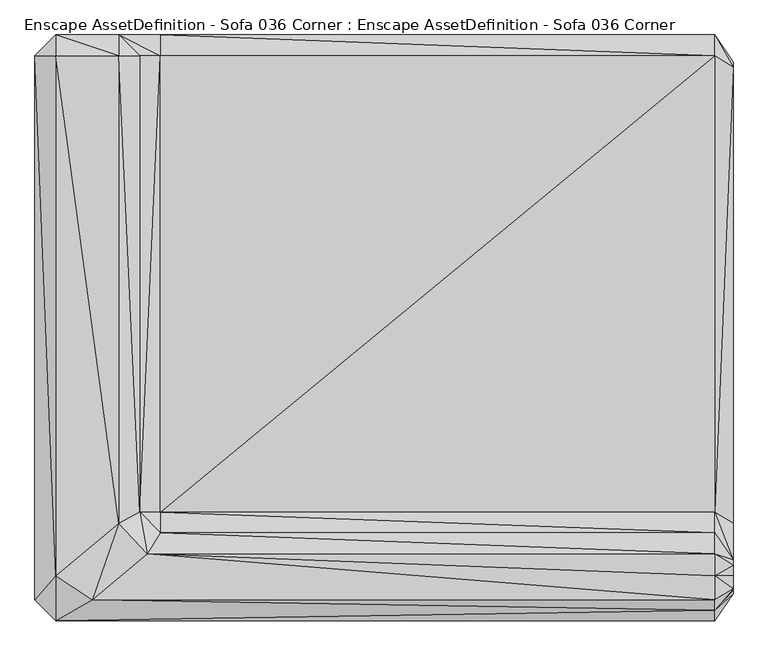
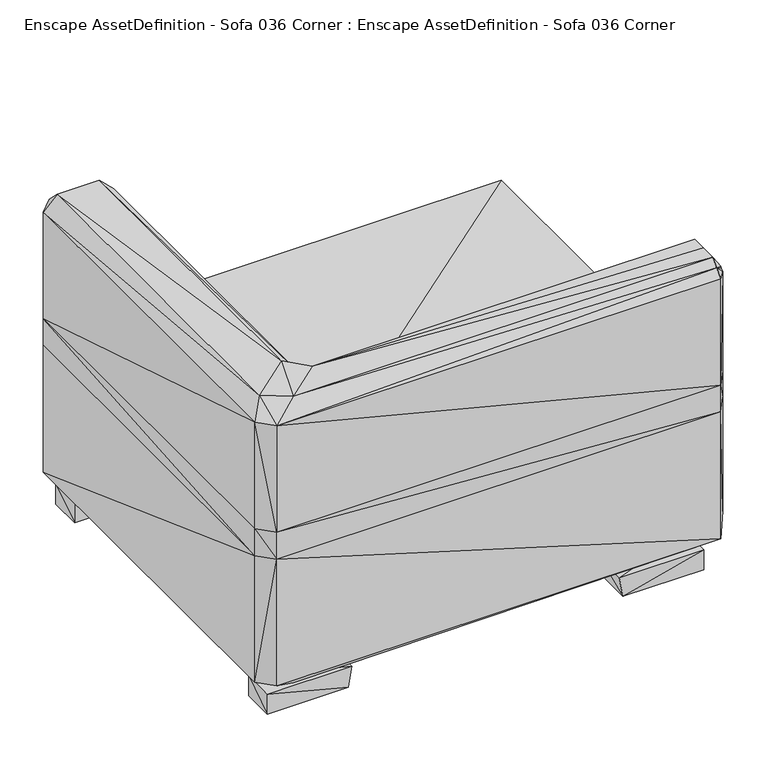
"""IFC4 building model written with IfcOpenShell, lengths in millimetres: geographic element geometry, Enscape AssetDefinition - Sofa 036 Corner : Enscape AssetDefinition - Sofa 036 Corner."""

from ifc_helpers import new_model, si_unit, origin, place, context, project, spatial, faceted_brep, source, transform, mapped, element, save


def enscape_assetdefinition_sofa_036_corner_enscape_ac6ef4ed(model_context):
    return source(origin(), model_context, "Body", "Brep", [
        faceted_brep([(507.2727203, -322.9636252, 473.454535), (-388.8879418, -322.9636252, 473.454535), (507.2727203, -322.9636252, 743.999958), (507.2727203, -356.7818105, 777.8181434), (536.6082788, -366.7505682, 725.8632779), (-388.8879418, -322.9636252, 743.999958), (-388.8879418, -289.1454399, 439.6363199), (-422.7061272, -289.1454399, 473.454535), (507.2727203, -289.1454399, 439.6363199), (536.6082788, -366.7505682, 455.3178251), (-388.8879418, 448.0908811, 439.6363199), (507.2727203, 448.0908811, 439.6363199), (-422.7061272, 448.0908811, 473.454535), (-422.7061272, -289.1454399, 743.999958), (-388.8879418, 481.9090664, 405.8181643), (-456.5242827, 481.9090664, 405.8181643), (536.6082788, 429.9542308, 395.8494067), (507.2727203, 481.9090664, 405.8181643), (-388.8879418, 481.9090664, 84.5454559), (507.2727203, 481.9090664, 84.5454559), (536.6082788, 438.1221235, 387.68062), (536.6082788, 438.1221235, 102.6821434), (-388.8879418, 448.0908811, 50.7272705), (507.2727203, 448.0908811, 50.7272705), (536.6082788, 429.9542308, 94.5142061), (-456.5242827, 481.9090664, 84.5454559), (507.2727203, -289.1454399, 50.7272705), (-456.5242827, 448.0908811, 50.7272705), (-388.8879418, -289.1454399, 50.7272705), (536.6082788, -289.1454399, 94.5142061), (507.2727203, -356.7818105, 50.7272705), (536.6082788, -350.0993252, 94.5142061), (-410.3878438, -356.7818105, 50.7272705), (-456.5242827, -307.2035015, 50.7272705), (-558.0000281, 448.0908811, 50.7272705), (-558.0000281, -392.4320936, 50.7272705), (-498.9703298, -431.1817884, 50.7272705), (507.2727203, -465.0000036, 84.5454559), (536.6082788, -421.2130606, 116.7369857), (536.6082788, -307.28212, 395.8494067), (536.6082788, -421.2130606, 405.8181643), (507.2727203, -465.0000036, 405.8181643), (-558.0000281, -465.0000036, 84.5454559), (-558.0000281, -465.0000036, 405.8181643), (-591.8181539, -431.1817884, 84.5454559), (-591.8181539, -431.1817884, 405.8181643), (-591.8181539, -431.1817884, 473.454535), (-558.0000281, -465.0000036, 473.454535), (507.2727203, -465.0000036, 473.454535), (-558.0000281, -465.0000036, 743.999958), (-591.8181539, -431.1817884, 743.999958), (-591.8181539, 448.0908811, 473.454535), (-591.8181539, 448.0908811, 405.8181643), (-591.8181539, 448.0908811, 84.5454559), (-558.0000281, 481.9090664, 84.5454559), (-558.0000281, 481.9090664, 405.8181643), (-558.0000281, 481.9090664, 473.454535), (-456.5242827, 481.9090664, 473.454535), (-558.0000281, 481.9090664, 743.999958), (-456.5242827, 481.9090664, 743.999958), (-558.0000281, 448.0908811, 777.8181434), (-591.8181539, 448.0908811, 743.999958), (-456.5242827, 448.0908811, 777.8181434), (-422.7061272, 448.0908811, 743.999958), (-456.5242827, -307.2035015, 777.8181434), (-558.0000281, -392.4320936, 777.8181434), (-498.9703298, -431.1817884, 777.8181434), (-410.3878438, -356.7818105, 777.8181434), (507.2727203, -431.1817884, 777.8181434), (507.2727203, -392.2689259, 777.8181434), (507.2727203, -447.6089478, 761.3909245), (507.2727203, -465.0000036, 743.999958), (536.6082788, -413.0442739, 734.0312004), (536.6082788, -416.6467488, 730.4287553), (536.6082788, -421.2130606, 725.8632779), (536.6082788, -392.2689259, 734.0312004), (536.6082788, -374.9184906, 734.0312004), (536.6082788, -421.2130606, 473.454535)], [[[0, 1, 2]], [[2, 3, 4]], [[1, 5, 2]], [[3, 2, 5]], [[0, 2, 4]], [[1, 6, 7]], [[5, 1, 7]], [[6, 1, 0]], [[8, 6, 0]], [[9, 0, 4]], [[8, 0, 9]], [[10, 6, 11]], [[7, 6, 10]], [[6, 8, 11]], [[12, 7, 10]], [[13, 5, 7]], [[13, 7, 12]], [[10, 14, 15]], [[10, 15, 12]], [[10, 11, 14]], [[11, 8, 16]], [[11, 17, 14]], [[17, 11, 16]], [[18, 14, 19]], [[15, 14, 18]], [[14, 17, 19]], [[20, 17, 16]], [[19, 17, 20]], [[21, 19, 20]], [[21, 20, 16]], [[18, 19, 22]], [[23, 19, 24]], [[19, 23, 22]], [[19, 21, 24]], [[25, 15, 18]], [[25, 18, 22]], [[23, 26, 22]], [[27, 25, 22]], [[26, 28, 22]], [[27, 22, 28]], [[26, 23, 24]], [[29, 26, 24]], [[24, 21, 16]], [[29, 24, 16]], [[26, 30, 28]], [[30, 26, 31]], [[26, 29, 31]], [[32, 33, 28]], [[33, 27, 28]], [[30, 32, 28]], [[27, 34, 25]], [[34, 27, 33]], [[35, 34, 33]], [[35, 33, 36]], [[33, 32, 36]], [[32, 37, 36]], [[32, 30, 37]], [[37, 30, 38]], [[30, 31, 38]], [[31, 29, 39]], [[31, 39, 38]], [[40, 41, 38]], [[39, 40, 38]], [[41, 37, 38]], [[42, 37, 43]], [[37, 42, 36]], [[37, 41, 43]], [[36, 42, 35]], [[42, 43, 44]], [[42, 44, 35]], [[45, 43, 46]], [[43, 41, 47]], [[43, 47, 46]], [[43, 45, 44]], [[41, 48, 47]], [[48, 41, 40]], [[49, 50, 47]], [[47, 48, 49]], [[50, 46, 47]], [[46, 51, 45]], [[51, 46, 50]], [[52, 53, 45]], [[53, 44, 45]], [[51, 52, 45]], [[44, 53, 35]], [[54, 34, 53]], [[53, 34, 35]], [[54, 53, 52]], [[55, 54, 52]], [[55, 52, 51]], [[34, 54, 25]], [[25, 54, 55]], [[56, 55, 51]], [[56, 57, 55]], [[15, 25, 55]], [[57, 15, 55]], [[56, 51, 58]], [[57, 56, 58]], [[59, 57, 58]], [[57, 59, 12]], [[15, 57, 12]], [[60, 58, 61]], [[60, 62, 58]], [[62, 59, 58]], [[51, 61, 58]], [[63, 59, 62]], [[59, 63, 12]], [[63, 13, 12]], [[13, 63, 62]], [[62, 60, 64]], [[64, 13, 62]], [[60, 61, 65]], [[60, 65, 64]], [[61, 51, 50]], [[61, 50, 65]], [[50, 49, 65]], [[65, 66, 64]], [[49, 66, 65]], [[64, 67, 13]], [[66, 67, 64]], [[67, 5, 13]], [[67, 3, 5]], [[66, 68, 67]], [[69, 3, 67]], [[68, 69, 67]], [[49, 70, 66]], [[70, 68, 66]], [[71, 70, 49]], [[48, 71, 49]], [[68, 70, 72]], [[73, 70, 74]], [[70, 73, 72]], [[70, 71, 74]], [[69, 68, 72]], [[75, 69, 72]], [[73, 75, 72]], [[3, 69, 76]], [[69, 75, 76]], [[75, 4, 76]], [[74, 4, 75]], [[73, 74, 75]], [[71, 48, 74]], [[77, 4, 74]], [[48, 77, 74]], [[77, 48, 40]], [[9, 77, 40]], [[77, 9, 4]], [[3, 76, 4]], [[39, 8, 9]], [[40, 39, 9]], [[8, 39, 16]], [[29, 16, 39]]]),
        faceted_brep([(-566.4545298, 438.349545, 0.0), (-566.4545298, 360.8247638, 0.0), (-566.4545298, 438.349545, 50.7272705), (-371.999979, 438.349545, 0.0), (-566.4545298, 360.8247638, 50.7272705), (-363.5454476, 438.349545, 50.7272705), (-371.999979, 360.8247638, 0.0), (-363.5454476, 360.8247638, 50.7272705)], [[[0, 1, 2]], [[0, 2, 3]], [[1, 4, 2]], [[5, 2, 4]], [[2, 5, 3]], [[1, 0, 6]], [[4, 1, 6]], [[0, 3, 6]], [[3, 5, 6]], [[7, 5, 4]], [[5, 7, 6]], [[7, 4, 6]]]),
        faceted_brep([(-371.999979, -362.1115386, 0.0), (-363.5454476, -362.1115386, 50.7272705), (-371.999979, -439.6363199, 0.0), (-363.5454476, -439.6363199, 50.7272705), (-566.4545298, -439.6363199, 50.7272705), (-566.4545298, -439.6363199, 0.0), (-566.4545298, -362.1115386, 0.0), (-566.4545298, -362.1115386, 50.7272705)], [[[0, 1, 2]], [[3, 4, 2]], [[5, 6, 2]], [[1, 3, 2]], [[4, 5, 2]], [[6, 0, 2]], [[3, 1, 7]], [[7, 1, 0]], [[6, 7, 0]], [[6, 5, 7]], [[5, 4, 7]], [[4, 3, 7]]]),
        faceted_brep([(286.5211666, -362.1115386, 0.0), (286.5211666, -439.6363199, 0.0), (278.0666053, -362.1115386, 50.7272705), (278.0666053, -439.6363199, 50.7272705), (480.9756875, -439.6363199, 50.7272705), (480.9756875, -439.6363199, 0.0), (480.9756875, -362.1115386, 0.0), (480.9756875, -362.1115386, 50.7272705)], [[[0, 1, 2]], [[3, 1, 4]], [[5, 1, 6]], [[2, 1, 3]], [[4, 1, 5]], [[6, 1, 0]], [[7, 0, 2]], [[3, 7, 2]], [[6, 0, 7]], [[6, 7, 5]], [[5, 7, 4]], [[4, 7, 3]]]),
        faceted_brep([(480.9756875, 438.349545, 0.0), (480.9756875, 438.349545, 50.7272705), (480.9756875, 360.8247638, 0.0), (286.5211666, 438.349545, 0.0), (480.9756875, 360.8247638, 50.7272705), (278.0666053, 438.349545, 50.7272705), (286.5211666, 360.8247638, 0.0), (278.0666053, 360.8247638, 50.7272705)], [[[0, 1, 2]], [[0, 3, 1]], [[2, 1, 4]], [[5, 4, 1]], [[1, 3, 5]], [[2, 6, 0]], [[4, 6, 2]], [[0, 6, 3]], [[3, 6, 5]], [[7, 4, 5]], [[5, 6, 7]], [[7, 6, 4]]]),
    ])


if __name__ == "__main__":
    model = new_model("IFC4")
    model_context = context("Model", 3, world=origin())
    ifc_project = project(units=[si_unit("LENGTHUNIT", "METRE", prefix="MILLI")], contexts=[model_context])
    site = spatial("IfcSite", under=ifc_project)
    building = spatial("IfcBuilding", under=site)
    placement = place(None, origin())
    enscape_assetdefinition_sofa_036_corner_enscape_shape = enscape_assetdefinition_sofa_036_corner_enscape_ac6ef4ed(model_context)
    element("IfcGeographicElement", 1, ObjectType="Enscape AssetDefinition - Sofa 036 Corner : Enscape AssetDefinition - Sofa 036 Corner", at=placement, inside=building, context=model_context, shape_type="MappedRepresentation", body=[
        mapped(enscape_assetdefinition_sofa_036_corner_enscape_shape, transform((0.0, 0.0, 0.0), x_axis=(1.0, 0.0, 0.0), y_axis=(0.0, 1.0, 0.0), z_axis=(0.0, 0.0, 1.0))),
    ])
    save(model, "model.ifc")
